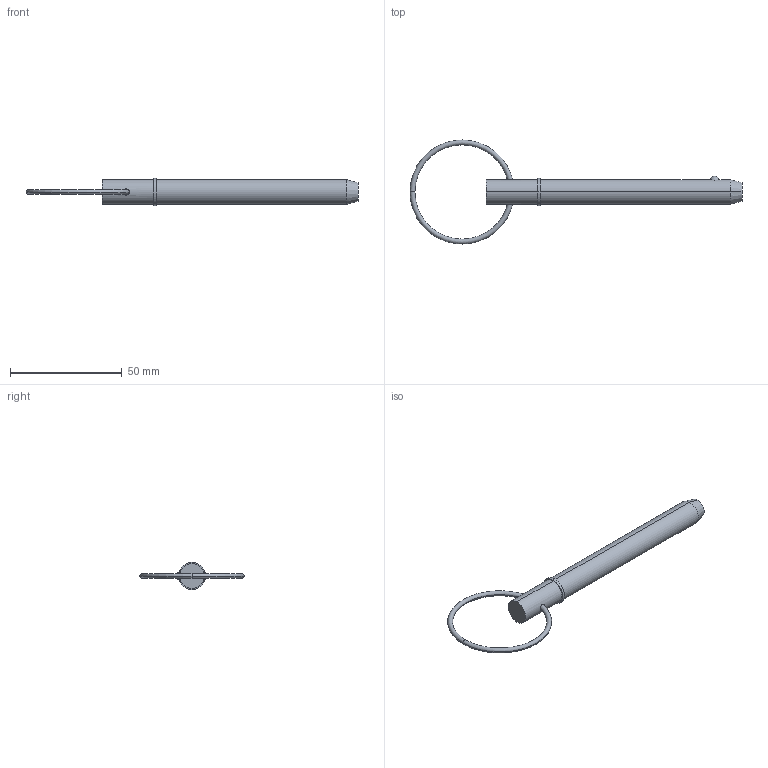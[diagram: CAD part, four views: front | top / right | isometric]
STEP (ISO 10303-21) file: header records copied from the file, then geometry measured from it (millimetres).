
FILE_DESCRIPTION (( 'STEP AP203' ), '1' );
FILE_NAME ('33016.W4330.step', '2024-11-07T11:07:22', ( '' ), ( '' ), 'SwSTEP 2.0', 'SolidWorks 2019', '' );
FILE_SCHEMA (( 'CONFIG_CONTROL_DESIGN' ));
Length unit declared in the file: millimetre
Products named in the file (3): Part1_33016.W4330; Part2_33016.W4330; 33016.W4330
Assembly tree (2 placements, depth 2):
  33016.W4330
    Part1_33016.W4330
    Part2_33016.W4330
Bounding box: 148.82 x 46.67 x 12.22 mm (x, y, z)
Volume: 11503.2 mm3; surface area: 5246.2 mm2
Topology: 2 solids, 2 shells, 22 faces, 43 edges, 26 vertices
Faces by surface type: torus 8, cylinder 6, plane 4, sphere 2, cone 2
Entity records: 1023 total; most frequent: CARTESIAN_POINT 246, DIRECTION 120, ORIENTED_EDGE 86, AXIS2_PLACEMENT_3D 56, EDGE_CURVE 43, CIRCLE 29, EDGE_LOOP 27, PERSON_AND_ORGANIZATION 26
